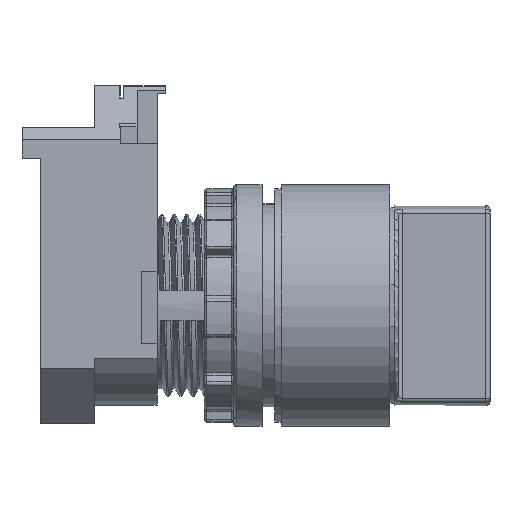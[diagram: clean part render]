
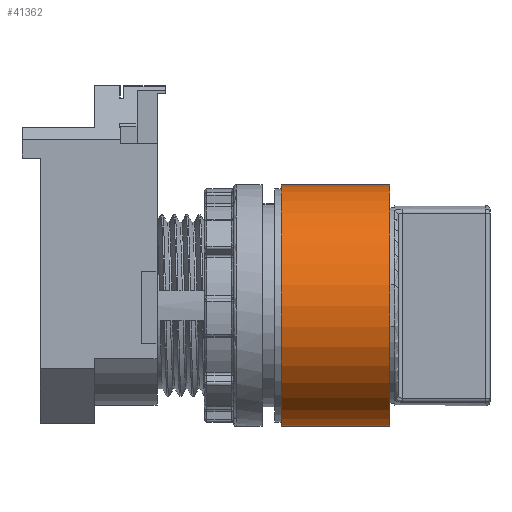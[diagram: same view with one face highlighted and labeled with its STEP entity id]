
A CAD part, left-side view. The second image highlights one B-rep face of the part: STEP entity #41362.
In plain terms, the highlighted cylindrical face has radius 14.5 mm (diameter 29 mm), a full revolution.
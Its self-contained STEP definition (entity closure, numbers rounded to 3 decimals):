
#41328=CARTESIAN_POINT('',(14.5,-5.45,0.0));
#41329=VERTEX_POINT('',#41328);
#41330=CARTESIAN_POINT('',(0.0,-5.45,0.0));
#41331=DIRECTION('',(0.0,1.0,0.0));
#41332=DIRECTION('',(1.0,0.0,0.0));
#41333=AXIS2_PLACEMENT_3D('',#41330,#41331,#41332);
#41334=CIRCLE('',#41333,14.5);
#41335=EDGE_CURVE('',#41329,#41329,#41334,.T.);
#41343=CARTESIAN_POINT('',(0.0,1.05,0.0));
#41344=DIRECTION('',(0.0,1.0,0.0));
#41345=DIRECTION('',(1.0,0.0,0.0));
#41346=AXIS2_PLACEMENT_3D('',#41343,#41344,#41345);
#41347=CYLINDRICAL_SURFACE('',#41346,14.5);
#41348=CARTESIAN_POINT('',(14.5,7.55,0.0));
#41349=VERTEX_POINT('',#41348);
#41350=CARTESIAN_POINT('',(0.0,7.55,0.0));
#41351=DIRECTION('',(0.0,1.0,0.0));
#41352=DIRECTION('',(1.0,0.0,0.0));
#41353=AXIS2_PLACEMENT_3D('',#41350,#41351,#41352);
#41354=CIRCLE('',#41353,14.5);
#41355=EDGE_CURVE('',#41349,#41349,#41354,.T.);
#41356=ORIENTED_EDGE('',*,*,#41355,.F.);
#41357=EDGE_LOOP('',(#41356));
#41358=FACE_OUTER_BOUND('',#41357,.T.);
#41359=ORIENTED_EDGE('',*,*,#41335,.T.);
#41360=EDGE_LOOP('',(#41359));
#41361=FACE_BOUND('',#41360,.T.);
#41362=ADVANCED_FACE('',(#41358,#41361),#41347,.T.);
